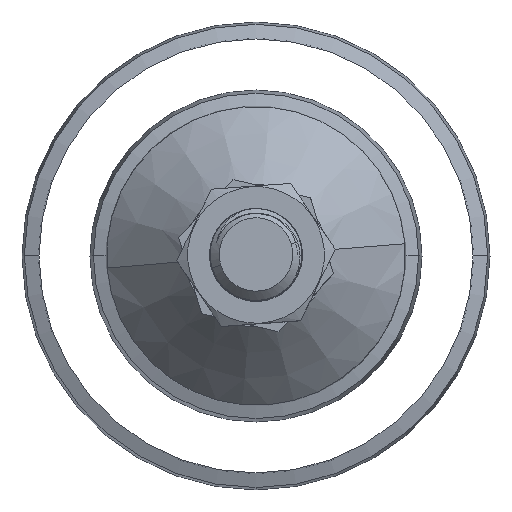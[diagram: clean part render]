
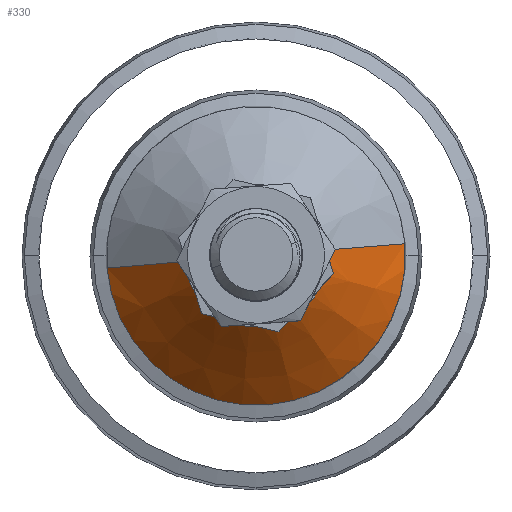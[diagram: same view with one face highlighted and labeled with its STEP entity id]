
A CAD part, top view. The second image highlights one B-rep face of the part: STEP entity #330.
In plain terms, the highlighted conical face has half-angle 45 degrees and reference radius 14.567 mm.
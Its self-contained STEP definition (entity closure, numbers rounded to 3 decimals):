
#114 = VERTEX_POINT ( 'NONE', #22942 ) ;
#330 = ADVANCED_FACE ( 'NONE', ( #27255 ), #25893, .T. ) ;
#1263 = CIRCLE ( 'NONE', #6940, 32.563 ) ;
#1270 = AXIS2_PLACEMENT_3D ( 'NONE', #22009, #19873, #17736 ) ;
#1738 = DIRECTION ( 'NONE',  ( 0.707, 0., -0.707 ) ) ;
#3727 = CARTESIAN_POINT ( 'NONE',  ( 0., 0., 29.5 ) ) ;
#4109 = CARTESIAN_POINT ( 'NONE',  ( 14.567, 0., 30.497 ) ) ;
#4403 = AXIS2_PLACEMENT_3D ( 'NONE', #3727, #18751, #5902 ) ;
#4875 = VERTEX_POINT ( 'NONE', #23962 ) ;
#4982 = VECTOR ( 'NONE', #13335, 1000. ) ;
#5902 = DIRECTION ( 'NONE',  ( -1., 0., 0. ) ) ;
#6901 = ORIENTED_EDGE ( 'NONE', *, *, #22676, .T. ) ;
#6940 = AXIS2_PLACEMENT_3D ( 'NONE', #21672, #8824, #23814 ) ;
#7685 = LINE ( 'NONE', #15504, #4982 ) ;
#7918 = EDGE_CURVE ( 'NONE', #4875, #11220, #22551, .T. ) ;
#8824 = DIRECTION ( 'NONE',  ( 0., 0., 1. ) ) ;
#9445 = ORIENTED_EDGE ( 'NONE', *, *, #22804, .T. ) ;
#11220 = VERTEX_POINT ( 'NONE', #22495 ) ;
#13335 = DIRECTION ( 'NONE',  ( -0.707, 0., -0.707 ) ) ;
#13375 = VERTEX_POINT ( 'NONE', #20223 ) ;
#13610 = ORIENTED_EDGE ( 'NONE', *, *, #7918, .T. ) ;
#14260 = EDGE_LOOP ( 'NONE', ( #17319, #13610, #9445, #6901 ) ) ;
#15504 = CARTESIAN_POINT ( 'NONE',  ( -14.567, 0., 30.497 ) ) ;
#17319 = ORIENTED_EDGE ( 'NONE', *, *, #17401, .F. ) ;
#17401 = EDGE_CURVE ( 'NONE', #4875, #114, #18236, .T. ) ;
#17736 = DIRECTION ( 'NONE',  ( -1., 0., 0. ) ) ;
#18236 = LINE ( 'NONE', #4109, #22556 ) ;
#18751 = DIRECTION ( 'NONE',  ( 0., 0., -1. ) ) ;
#19873 = DIRECTION ( 'NONE',  ( 0., 0., -1. ) ) ;
#20223 = CARTESIAN_POINT ( 'NONE',  ( -32.563, 0., 12.5 ) ) ;
#21672 = CARTESIAN_POINT ( 'NONE',  ( 0., 0., 12.5 ) ) ;
#22009 = CARTESIAN_POINT ( 'NONE',  ( 0., 0., 30.497 ) ) ;
#22495 = CARTESIAN_POINT ( 'NONE',  ( -15.563, 0., 29.5 ) ) ;
#22551 = CIRCLE ( 'NONE', #4403, 15.563 ) ;
#22556 = VECTOR ( 'NONE', #1738, 1000. ) ;
#22676 = EDGE_CURVE ( 'NONE', #13375, #114, #1263, .T. ) ;
#22804 = EDGE_CURVE ( 'NONE', #11220, #13375, #7685, .T. ) ;
#22942 = CARTESIAN_POINT ( 'NONE',  ( 32.563, 0., 12.5 ) ) ;
#23814 = DIRECTION ( 'NONE',  ( 1., 0., 0. ) ) ;
#23962 = CARTESIAN_POINT ( 'NONE',  ( 15.563, 0., 29.5 ) ) ;
#25893 = CONICAL_SURFACE ( 'NONE', #1270, 14.567, 0.785 ) ;
#27255 = FACE_OUTER_BOUND ( 'NONE', #14260, .T. ) ;
